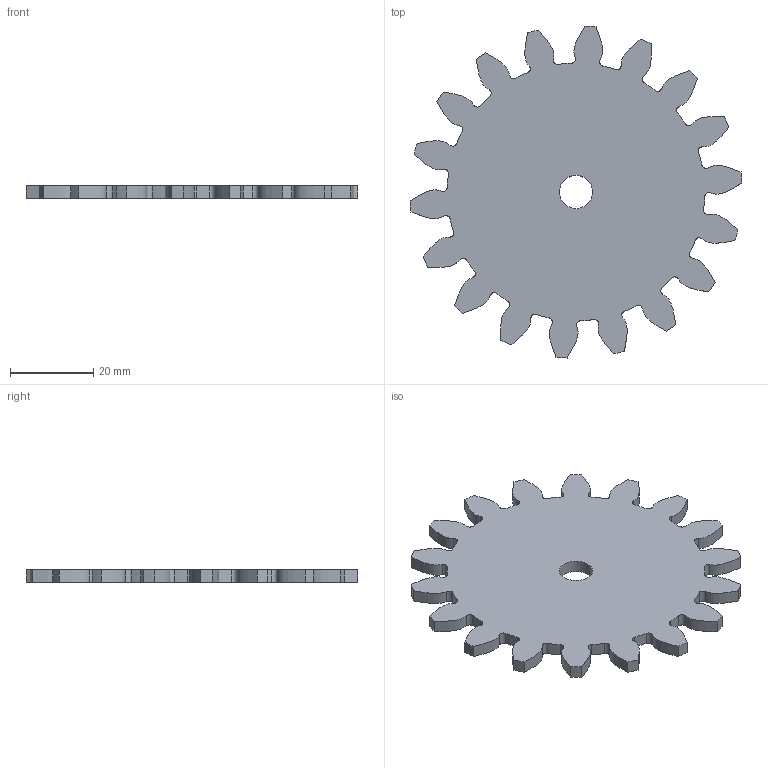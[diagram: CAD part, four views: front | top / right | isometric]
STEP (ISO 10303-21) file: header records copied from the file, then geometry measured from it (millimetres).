
FILE_DESCRIPTION (( 'STEP AP203' ), '1' );
FILE_NAME ('Pignon denture droite m=4 Z=18.STEP', '2025-09-18T11:49:38', ( '' ), ( '' ), 'SwSTEP 2.0', 'SolidWorks 2019', '' );
FILE_SCHEMA (( 'CONFIG_CONTROL_DESIGN' ));
Length unit declared in the file: millimetre
Products named in the file (1): Pignon denture droite m=4 Z=18
Bounding box: 79.89 x 79.89 x 3 mm (x, y, z)
Volume: 11623.8 mm3; surface area: 9355.9 mm2
Topology: 1 solids, 1 shells, 354 faces, 1020 edges, 680 vertices
Faces by surface type: bspline 229, cylinder 84, plane 41
Entity records: 17311 total; most frequent: CARTESIAN_POINT 9356, ORIENTED_EDGE 2040, EDGE_CURVE 1020, DIRECTION 982, VERTEX_POINT 680, B_SPLINE_CURVE_WITH_KNOTS 458, LINE 394, VECTOR 394
